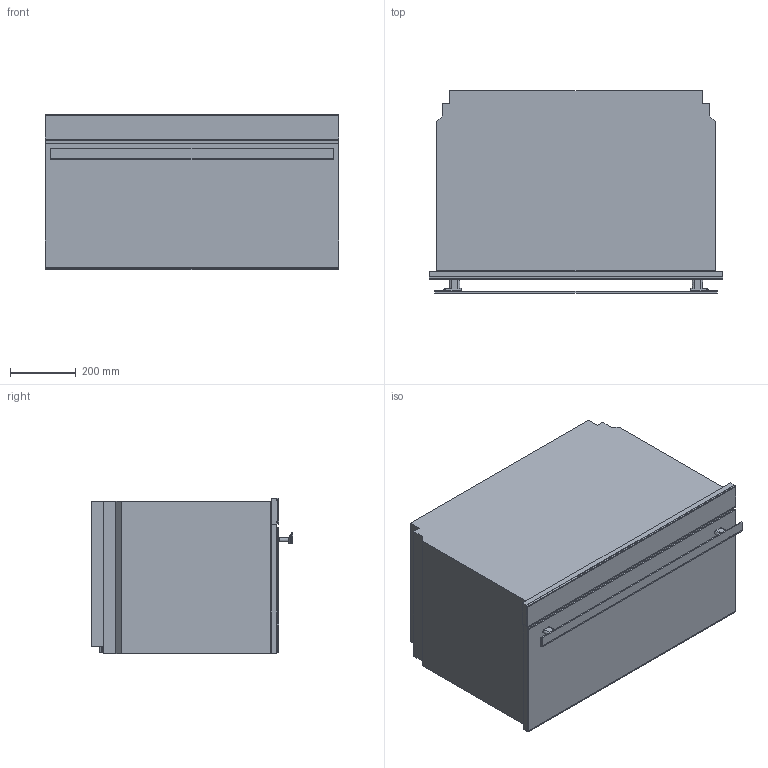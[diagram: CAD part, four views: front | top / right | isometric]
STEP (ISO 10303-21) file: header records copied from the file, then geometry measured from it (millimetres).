
FILE_DESCRIPTION(/* description */ ('Unknown'),/* implementation_level */ '2;1');
FILE_NAME(/* name */ 'SFPR9604TNR-SFPR9606WTPNR',/* time_stamp */ '2025-07-15T08:52:16+02:00',/* author */ ('Unknown'),/* organization */ ('Unknown'),/* preprocessor_version */ 'ST-DEVELOPER v16.7',/* originating_system */ 'DEX',/* authorisation */ $);
FILE_SCHEMA (('AUTOMOTIVE_DESIGN {1 0 10303 214 3 1 1}'));
Length unit declared in the file: millimetre
Products named in the file (1): SFPR9604TNR-SFPR9606WTPNR
Bounding box: 896 x 615.8 x 474.7 mm (x, y, z)
Volume: 222695160.6 mm3; surface area: 4043619.5 mm2
Topology: 5 solids, 5 shells, 119 faces, 300 edges, 200 vertices
Faces by surface type: plane 97, bspline 16, cylinder 6
Full cylindrical faces by diameter (mm): 4 x2
Entity records: 4753 total; most frequent: CARTESIAN_POINT 1293, ORIENTED_EDGE 592, DIRECTION 464, EDGE_CURVE 296, LINE 240, VECTOR 240, VERTEX_POINT 198, EDGE_LOOP 130
